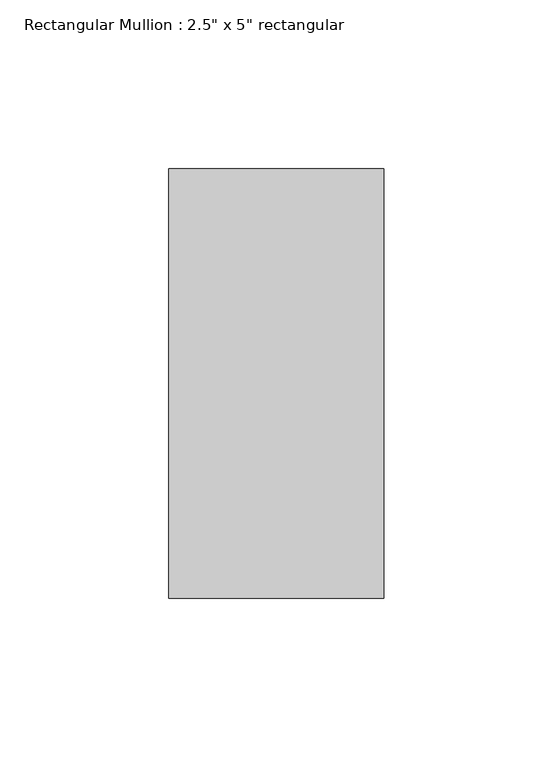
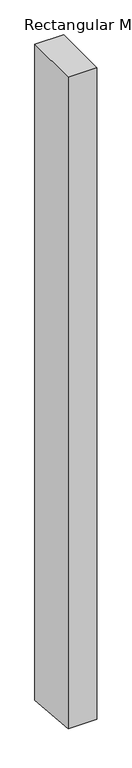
"""IFC4 building model written with IfcOpenShell, lengths in millimetres: member geometry."""

import ifcopenshell
import ifcopenshell.guid

model = None  # the IFC model being written
_history = None  # IfcOwnerHistory: only IFC2X3 demands one
_inside = {}  # id of a spatial element -> (the spatial element, [elements in it])
_under = {}  # id of a project, library or spatial element -> (it, [spatial elements below it])
_declared = {}  # id of a project -> (the project, [libraries it declares])
_typed = {}  # id of a type object -> (the type object, [elements of that type])
_made_of = {}  # id of a material, layer set ... -> (it, [elements and type objects made of it])


def new_model(schema):
    """Start an empty IFC model of exactly this schema.

    Asked for "IFC4X3", IfcOpenShell would pick the latest addendum, in which some entities
    have other attributes; the version numbers below select the first issue.
    IFC2X3 requires an IfcOwnerHistory on every rooted entity: one is made here for all.
    """
    global model, _history
    if schema == "IFC4X3":
        model = ifcopenshell.file(schema_version=(4, 3, 0, 0))
    else:
        model = ifcopenshell.file(schema=schema)
    _inside.clear()
    _under.clear()
    _declared.clear()
    _typed.clear()
    _made_of.clear()
    _history = None
    if model.schema == "IFC2X3":
        org = make("IfcOrganization", Name="unknown")
        user = make(
            "IfcPersonAndOrganization",
            ThePerson=make("IfcPerson", FamilyName="unknown"),
            TheOrganization=org,
        )
        app = make(
            "IfcApplication",
            ApplicationDeveloper=org,
            Version="unknown",
            ApplicationFullName="unknown",
            ApplicationIdentifier="unknown",
        )
        _history = make(
            "IfcOwnerHistory",
            OwningUser=user,
            OwningApplication=app,
            ChangeAction="ADDED",
            CreationDate=0,
        )
    return model


def make(cls, **values):
    """One entity of the class cls with the attributes given. An attribute that is None is left unset."""
    return model.create_entity(
        cls, **{name: value for name, value in values.items() if value is not None}
    )


def rooted(cls, **values):
    """An entity with a GlobalId (a new one), such as an element, a storey or a relation."""
    return make(cls, GlobalId=ifcopenshell.guid.new(), OwnerHistory=_history, **values)


def si_unit(unit_type, name, prefix=None):
    """IfcSIUnit, for example si_unit("LENGTHUNIT", "METRE", prefix="MILLI")."""
    return make("IfcSIUnit", UnitType=unit_type, Prefix=prefix, Name=name)


def assignment(units):
    """IfcUnitAssignment: the units of a project."""
    return None if units is None else make("IfcUnitAssignment", Units=units)


def point(xyz):
    """IfcCartesianPoint."""
    return None if xyz is None else make("IfcCartesianPoint", Coordinates=xyz)


def direction(xyz):
    """IfcDirection."""
    return None if xyz is None else make("IfcDirection", DirectionRatios=xyz)


def frame(location, z_axis=None, x_axis=None):
    """IfcAxis2Placement3D, a coordinate frame: its origin and axes. An axis left out is left unset."""
    return make(
        "IfcAxis2Placement3D",
        Location=point(location),
        Axis=direction(z_axis),
        RefDirection=direction(x_axis),
    )


def origin():
    """The frame at (0, 0, 0) with its axes left unset."""
    return frame((0.0, 0.0, 0.0))


def place(relative_to, where):
    """IfcLocalPlacement: puts the frame where relative to a parent placement (None: the world)."""
    return make(
        "IfcLocalPlacement", PlacementRelTo=relative_to, RelativePlacement=where
    )


def context(
    kind, dimensions, precision=None, world=None, true_north=None, identifier=None
):
    """IfcGeometricRepresentationContext, for example the 3D "Model" context."""
    return make(
        "IfcGeometricRepresentationContext",
        ContextIdentifier=identifier,
        ContextType=kind,
        CoordinateSpaceDimension=dimensions,
        Precision=precision,
        WorldCoordinateSystem=world,
        TrueNorth=true_north,
    )


def project(units=None, contexts=None):
    """IfcProject with its units and contexts."""
    return rooted(
        "IfcProject",
        Name="project",
        RepresentationContexts=contexts,
        UnitsInContext=assignment(units),
    )


def spatial(cls, under=None, at=None, **own):
    """A site, building, storey or space (cls), placed at a placement, below another one or the project."""
    s = rooted(cls, ObjectPlacement=at, **own)
    if under is not None:
        _under.setdefault(under.id(), (under, []))[1].append(s)
    return s


def faces_of(points, faces, orient=None, outer=None):
    """IfcFace entities. A face is a list of loops; a loop is a list of indices into points, from 0.

    orient and outer hold one flag for each loop. By default every Orientation is true, the
    first loop of a face is its IfcFaceOuterBound and the others are IfcFaceBound.
    """
    made = []
    for i, loops in enumerate(faces):
        bounds = []
        for j, loop in enumerate(loops):
            is_outer = j == 0 if outer is None else outer[i][j]
            bounds.append(
                make(
                    "IfcFaceOuterBound" if is_outer else "IfcFaceBound",
                    Bound=make("IfcPolyLoop", Polygon=[points[k] for k in loop]),
                    Orientation=True if orient is None else orient[i][j],
                )
            )
        made.append(make("IfcFace", Bounds=bounds))
    return made


def faceted_brep(points, faces, orient=None, outer=None, voids=None):
    """IfcFacetedBrep: a solid bounded by flat faces; with voids (closed shells), ...WithVoids."""
    shared = [point(p) for p in points]
    hull = make("IfcClosedShell", CfsFaces=faces_of(shared, faces, orient, outer))
    if voids is None:
        return make("IfcFacetedBrep", Outer=hull)
    return make(
        "IfcFacetedBrepWithVoids",
        Outer=hull,
        Voids=[
            make(cls, CfsFaces=faces_of(shared, fs, o, b)) for cls, fs, o, b in voids
        ],
    )


def shape(context_of_items, identifier, shape_type, items):
    """IfcShapeRepresentation: the items that make up one representation, for example the "Body"."""
    return make(
        "IfcShapeRepresentation",
        ContextOfItems=context_of_items,
        RepresentationIdentifier=identifier,
        RepresentationType=shape_type,
        Items=items,
    )


def source(mapping_origin, context_of_items, identifier, shape_type, items):
    """IfcRepresentationMap: a shape defined once, which mapped items show again and again."""
    return make(
        "IfcRepresentationMap",
        MappingOrigin=mapping_origin,
        MappedRepresentation=shape(context_of_items, identifier, shape_type, items),
    )


def transform(
    local_origin,
    x_axis=None,
    y_axis=None,
    z_axis=None,
    scale=None,
    scale2=None,
    scale3=None,
    uniform=True,
):
    """IfcCartesianTransformationOperator3D, or its non-uniform kind. x_axis, y_axis, z_axis: its Axis1, 2, 3."""
    if uniform:
        return make(
            "IfcCartesianTransformationOperator3D",
            Axis1=direction(x_axis),
            Axis2=direction(y_axis),
            LocalOrigin=point(local_origin),
            Scale=scale,
            Axis3=direction(z_axis),
        )
    return make(
        "IfcCartesianTransformationOperator3DnonUniform",
        Axis1=direction(x_axis),
        Axis2=direction(y_axis),
        LocalOrigin=point(local_origin),
        Scale=scale,
        Axis3=direction(z_axis),
        Scale2=scale2,
        Scale3=scale3,
    )


def mapped(mapping_source, mapping_target):
    """IfcMappedItem: shows the shape of a source again, moved by a transform."""
    return make(
        "IfcMappedItem", MappingSource=mapping_source, MappingTarget=mapping_target
    )


def made_of(thing, what):
    """Note that an element or type object is made of a material, layer set ...; save() writes the relation."""
    if what is not None:
        _made_of.setdefault(what.id(), (what, []))[1].append(thing)
    return thing


def element(
    cls,
    number,
    at=None,
    inside=None,
    cuts=None,
    type_object=None,
    material=None,
    context=None,
    identifier="Body",
    shape_type=None,
    held_by="IfcProductDefinitionShape",
    body=None,
    shapes=None,
    **own,
):
    """One element of the class cls, such as IfcWall. Its Tag is "e" and its number.

    at: its placement. inside: the storey or other place that contains it. cuts: it is an
    opening in that element (IfcRelVoidsElement). A single representation is given by context,
    identifier, shape_type and body (its items); several are given by shapes. held_by: the class
    of the entity that holds the representations. save() writes the other relations.
    """
    e = rooted(cls, Tag="e%d" % number, ObjectPlacement=at, **own)
    if body is not None:
        shapes = [shape(context, identifier, shape_type, body)]
    if shapes is not None:
        e.Representation = make(held_by, Representations=shapes)
    if inside is not None:
        _inside.setdefault(inside.id(), (inside, []))[1].append(e)
    if cuts is not None:
        rooted(
            "IfcRelVoidsElement", RelatingBuildingElement=cuts, RelatedOpeningElement=e
        )
    if type_object is not None:
        _typed.setdefault(type_object.id(), (type_object, []))[1].append(e)
    return made_of(e, material)


def aggregate(whole, parts):
    """IfcRelAggregates: a whole, such as a stair, and the parts it consists of."""
    return rooted("IfcRelAggregates", RelatingObject=whole, RelatedObjects=parts)


def save(model, path):
    """Write the relations noted so far, then the file.

    IfcRelAggregates (storeys below a building ...), IfcRelContainedInSpatialStructure (elements
    in a storey), IfcRelDefinesByType, IfcRelAssociatesMaterial and IfcRelDeclares: one each for
    every whole, place, type object, material and project.
    """
    for whole, parts in _under.values():
        aggregate(whole, parts)
    for where, things in _inside.values():
        rooted(
            "IfcRelContainedInSpatialStructure",
            RelatedElements=things,
            RelatingStructure=where,
        )
    for kind, things in _typed.values():
        rooted("IfcRelDefinesByType", RelatedObjects=things, RelatingType=kind)
    for what, things in _made_of.values():
        rooted("IfcRelAssociatesMaterial", RelatedObjects=things, RelatingMaterial=what)
    for by, libraries in _declared.values():
        rooted("IfcRelDeclares", RelatingContext=by, RelatedDefinitions=libraries)
    model.write(path)


def member_8adeae2d(model_context):
    return source(origin(), model_context, "Body", "Brep", [
        faceted_brep([(0.0, 63.5, 0.0), (-63.5, 63.5, 0.0), (-63.5, -63.5, 0.0), (0.0, -63.5, 0.0), (0.0, 63.5, -1529.3099806), (-63.5, 63.5, -1529.2692602), (-63.5, -63.5, -1518.6492989), (0.0, -63.5, -1518.6900194)], [[[0, 1, 2, 3]], [[1, 0, 4, 5]], [[2, 1, 5, 6]], [[3, 2, 6, 7]], [[0, 3, 7, 4]], [[4, 7, 6, 5]]]),
    ])


if __name__ == "__main__":
    model = new_model("IFC4")
    model_context = context("Model", 3, world=origin())
    ifc_project = project(units=[si_unit("LENGTHUNIT", "METRE", prefix="MILLI")], contexts=[model_context])
    site = spatial("IfcSite", under=ifc_project)
    building = spatial("IfcBuilding", under=site)
    placement = place(None, origin())
    member_shape = member_8adeae2d(model_context)
    element("IfcMember", 1, ObjectType="Rectangular Mullion : 2.5\" x 5\" rectangular", at=placement, inside=building, context=model_context, shape_type="MappedRepresentation", body=[
        mapped(member_shape, transform((0.0, 0.0, 0.0), x_axis=(1.0, 0.0, 0.0), y_axis=(0.0, 1.0, 0.0), z_axis=(0.0, 0.0, 1.0))),
    ])
    save(model, "model.ifc")
